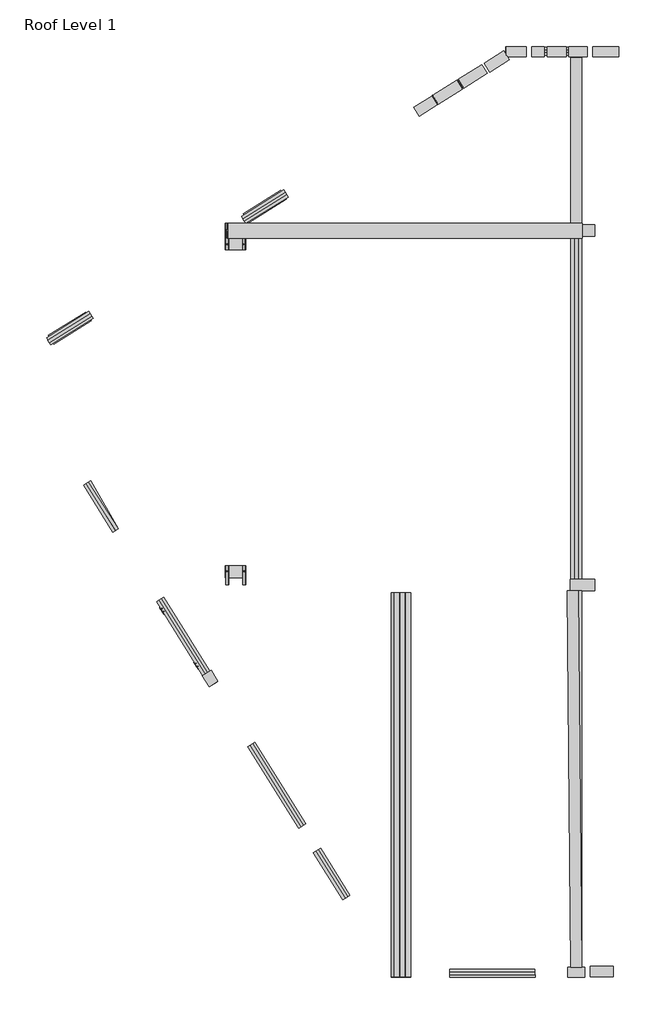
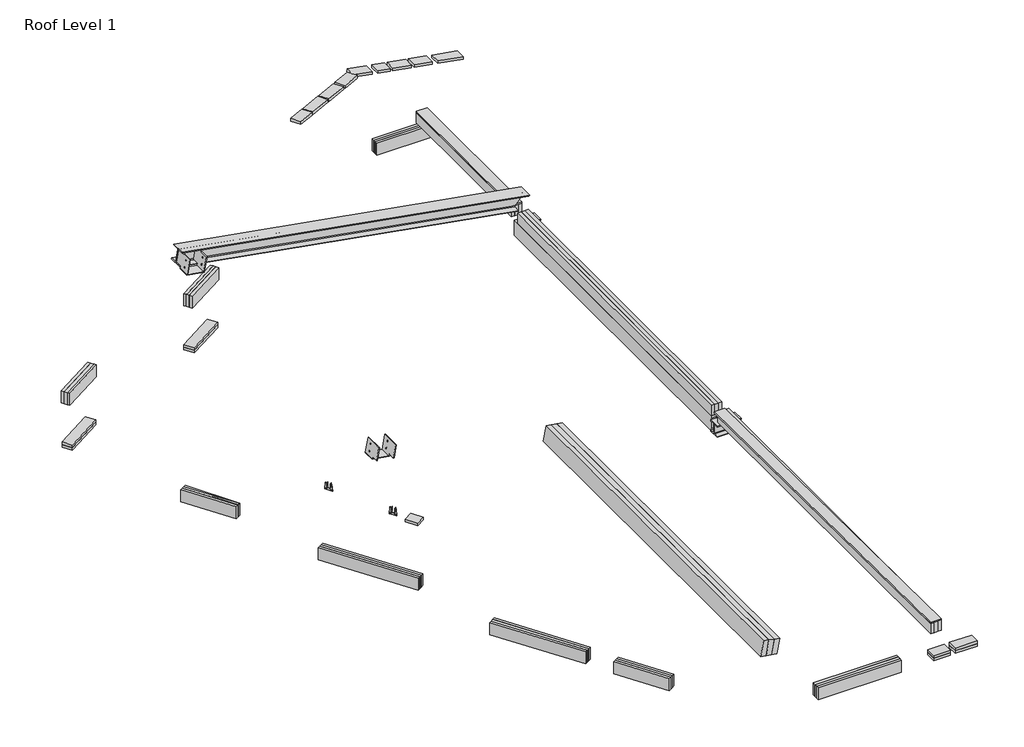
# One storey, incomplete: 52 beams, 6 proxies, 2 fasteners.
"""IFC4 building model written with IfcOpenShell, lengths in millimetres."""

from ifc_helpers import new_model, si_unit, point, frame, frame_2d, origin, place, context, project, spatial, polyline, circle_curve, ellipse_curve, trimmed, segment, composite_curve, outline, extrude, faceted_brep, transform, mapped, element, save
from ifc_brep_helpers import plane_surface, revolved_surface, advanced_brep
from components import beam_38x175_49020f02, beam_38x175_676dfe6d, beam_38x175_4bd95a5e, beam_38x175_f47548d0, beam_38x175_68774d32, beam_38x175_81e2ca7b, beam_38x175_494167a4, beam_38x175_de619a9e, beam_38x175_786eaa01, beam_38x175_d744822a, beam_38x175_5960142e, beam_38x175_c6337a63, beam_38x175_fa43021f, beam_38x175_4221ed1c, beam_38x175_250ad1c7, fin_plate_purlin_beam_connection_base_plate2_fin_plate_858f80be, fin_plate_purlin_beam_connection_base_plate5_fin_plate_4f75a835, fin_plate_purlin_beam_connection12_fin_plate_purlin_beam_61acc9f2, fin_plate_purlin_beam_connection13_fin_plate_purlin_beam_64d9cd63, fin_plate_purlin_beam_connection6_fin_plate_purlin_beam_f24f73d1, fin_plate_purlin_beam_connection7_fin_plate_purlin_beam_6425c43f, tcp47_tcp47_5fc6ffc4

model = new_model("IFC4")

# Units and contexts
model_context = context("Model", 3, world=origin())
ifc_project = project(units=[si_unit("LENGTHUNIT", "METRE", prefix="MILLI")], contexts=[model_context])

# Site, building, storey
site = spatial("IfcSite", under=ifc_project)
building = spatial("IfcBuilding", under=site)
storey = spatial("IfcBuildingStorey", under=building, Name="Roof Level 1", Elevation=3400.0)

# Beams
placement = place(None, origin())
element("IfcBeam", 1, ObjectType="Graded Timber - 2No : 2 x 75x225", at=placement, inside=storey, context=model_context, shape_type="SweptSolid", body=[
    extrude(outline(polyline([(15853.6021184, 2647.0), (15853.6021184, 2427.0), (11149.0549517, 2427.0), (11149.0549517, 2461.7), (11136.2127843, 2461.7), (11136.2127843, 2560.5), (11149.0549517, 2560.5), (11149.0549517, 2612.0), (11136.2127843, 2612.0), (11136.2127843, 2647.0), (15853.6021184, 2647.0)])), frame((-29441.9371106, 0.0, 0.0), z_axis=(1.0, 0.0, 0.0), x_axis=(0.0, 1.0, 0.0)), (0.0, 0.0, 1.0), 75.0),
    extrude(outline(polyline([(15853.6021184, 2647.0), (15853.6021184, 2427.0), (11149.0549517, 2427.0), (11149.0549517, 2461.7), (11136.2127843, 2461.7), (11136.2127843, 2560.5), (11149.0549517, 2560.5), (11149.0549517, 2612.0), (11136.2127843, 2612.0), (11136.2127843, 2647.0), (15853.6021184, 2647.0)])), frame((-29516.9371106, 0.0, 0.0), z_axis=(1.0, 0.0, 0.0), x_axis=(0.0, 1.0, 0.0)), (0.0, 0.0, 1.0), 75.0),
])
element("IfcBeam", 2, ObjectType="Graded Timber : 20x150", at=placement, inside=storey, context=model_context, shape_type="SweptSolid", body=[
    extrude(outline(polyline([(-29366.9547276, 5877.831558), (-29516.9471573, 5876.3245614), (-29568.1799466, 10975.5602204), (-29418.1875169, 10977.067217), (-29366.9547276, 5877.831558)])), frame((0.0, 0.0, 2797.0), z_axis=(0.0, 0.0, 1.0), x_axis=(1.0, 0.0, 0.0)), (0.0, 0.0, 1.0), 20.0),
])
element("IfcBeam", 3, ObjectType="Graded Timber : 20x150", at=placement, inside=storey, context=model_context, shape_type="SweptSolid", body=[
    extrude(outline(polyline([(-29366.9371106, 15931.623117), (-29516.9371106, 15931.623117), (-29516.9371106, 18197.3368082), (-29366.9371106, 18197.3368082), (-29366.9371106, 15931.623117)])), frame((0.0, 0.0, 2797.0), z_axis=(0.0, 0.0, 1.0), x_axis=(1.0, 0.0, 0.0)), (0.0, 0.0, 1.0), 20.0),
])
element("IfcBeam", 4, ObjectType="Graded Timber - 3No : 3 x 75x225", at=placement, inside=storey, context=model_context, shape_type="SweptSolid", body=[
    extrude(outline(polyline([(37.5000001, 0.0), (-37.5, 0.0), (-37.5, 5212.8012162), (37.5000001, 5212.8012161), (37.5000001, 0.0)])), frame((-31836.4314051, 5736.6935304, 3229.1839617), z_axis=(0.1736481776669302, 0.0021192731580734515, 0.9848054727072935), x_axis=(0.9848077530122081, -0.0003736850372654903, -0.1736477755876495)), (0.0, 0.0, 1.0), 220.0),
    extrude(outline(polyline([(37.5000001, 0.0), (-37.5, -1e-07), (-37.5, 5212.8012161), (37.5000001, 5212.8012161), (37.5000001, 0.0)])), frame((-31762.5708236, 5736.6655041, 3216.1603785), z_axis=(0.1736481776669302, 0.0021192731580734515, 0.9848054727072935), x_axis=(0.9848077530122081, -0.0003736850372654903, -0.1736477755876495)), (0.0, 0.0, 1.0), 220.0),
    extrude(outline(polyline([(37.5, 0.0), (-37.5, 0.0), (-37.5000001, 5212.8012162), (37.5, 5212.8012161), (37.5, 0.0)])), frame((-31910.2919865, 5736.7215568, 3242.2075449), z_axis=(0.1736481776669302, 0.0021192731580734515, 0.9848054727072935), x_axis=(0.9848077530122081, -0.0003736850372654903, -0.1736477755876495)), (0.0, 0.0, 1.0), 220.0),
])
element("IfcBeam", 5, ObjectType="Graded Timber : 38x140", at=placement, inside=storey, context=model_context, shape_type="SweptSolid", body=[
    extrude(outline(polyline([(-33881.2109612, 15963.4183163), (-33955.3989761, 16082.145476), (-33446.5683093, 16400.0941005), (-33372.3796104, 16281.3673682), (-33881.2109612, 15963.4183163)])), frame((0.0, 0.0, 2166.0), z_axis=(0.0, 0.0, 1.0), x_axis=(1.0, 0.0, 0.0)), (0.0, 0.0, 1.0), 38.0),
])
element("IfcBeam", 6, ObjectType="Graded Timber : 38x140", at=placement, inside=storey, context=model_context, shape_type="SweptSolid", body=[
    extrude(outline(polyline([(-33881.1101412, 15963.4813026), (-33955.2981561, 16082.2084623), (-33446.5683038, 16400.0940917), (-33372.3796049, 16281.3673594), (-33881.1101412, 15963.4813026)])), frame((0.0, 0.0, 2204.0), z_axis=(0.0, 0.0, 1.0), x_axis=(1.0, 0.0, 0.0)), (0.0, 0.0, 1.0), 38.0),
])
element("IfcBeam", 7, ObjectType="Graded Timber : 38x140", at=placement, inside=storey, context=model_context, shape_type="SweptSolid", body=[
    extrude(outline(polyline([(-36519.9896709, 14314.5488346), (-36594.1783698, 14433.2755669), (-36086.1975653, 14750.6972143), (-36012.0088664, 14631.9704821), (-36519.9896709, 14314.5488346)])), frame((0.0, 0.0, 2666.0), z_axis=(0.0, 0.0, 1.0), x_axis=(1.0, 0.0, 0.0)), (0.0, 0.0, 1.0), 38.0),
])
element("IfcBeam", 8, ObjectType="Graded Timber : 38x140", at=placement, inside=storey, context=model_context, shape_type="SweptSolid", body=[
    extrude(outline(polyline([(-36519.9896709, 14314.5488346), (-36594.1783698, 14433.2755669), (-36086.1975653, 14750.6972143), (-36012.0088664, 14631.9704821), (-36519.9896709, 14314.5488346)])), frame((0.0, 0.0, 2704.0), z_axis=(0.0, 0.0, 1.0), x_axis=(1.0, 0.0, 0.0)), (0.0, 0.0, 1.0), 38.0),
])
element("IfcBeam", 9, ObjectType="Graded Timber : 38x140", at=placement, inside=storey, context=model_context, shape_type="SweptSolid", body=[
    extrude(outline(polyline([(3406.9166764, -29219.5411236), (3344.3904214, -28864.9371106), (3382.9766327, -28864.9371106), (3445.5028876, -29219.5411236), (3406.9166764, -29219.5411236)])), frame((0.0, 18207.3350736, 0.0), z_axis=(0.0, 1.0, 0.0), x_axis=(0.0, 0.0, 1.0)), (0.0, 0.0, 1.0), 140.0),
])
element("IfcBeam", 10, ObjectType="Graded Timber : 38x140", at=placement, inside=storey, context=model_context, shape_type="SweptSolid", body=[
    extrude(outline(polyline([(3464.1517067, -29544.1371106), (3420.3175269, -29295.5411236), (3458.9037382, -29295.5411236), (3502.737918, -29544.1371106), (3464.1517067, -29544.1371106)])), frame((0.0, 18207.3350736, 0.0), z_axis=(0.0, 1.0, 0.0), x_axis=(0.0, 0.0, 1.0)), (0.0, 0.0, 1.0), 140.0),
])
element("IfcBeam", 11, ObjectType="Graded Timber : 38x140", at=placement, inside=storey, context=model_context, shape_type="SweptSolid", body=[
    extrude(outline(polyline([(3515.9918391, -29838.1371106), (3470.852132, -29582.1371106), (3509.4383432, -29582.1371106), (3554.5780503, -29838.1371106), (3515.9918391, -29838.1371106)])), frame((0.0, 18207.3350736, 0.0), z_axis=(0.0, 1.0, 0.0), x_axis=(0.0, 0.0, 1.0)), (0.0, 0.0, 1.0), 140.0),
])
element("IfcBeam", 12, ObjectType="Graded Timber : 38x140", at=placement, inside=storey, context=model_context, shape_type="Brep", body=[
    faceted_brep([(-30692.1893241, 18121.1963529, 3698.0512131), (-30425.1362453, 18288.0696372, 3650.9625501), (-30425.1362453, 18288.0696372, 3612.5400523), (-30692.1893241, 18121.1963529, 3659.6287153), (-30618.0006252, 18002.4696206, 3698.0512128), (-30350.9475464, 18169.3429049, 3650.9625497), (-30350.9475464, 18169.3429049, 3612.5400519), (-30618.0006252, 18002.4696206, 3659.628715)], [[[0, 1, 2, 3]], [[4, 5, 1, 0]], [[2, 1, 5, 6]], [[3, 2, 6, 7]], [[7, 6, 5, 4]], [[0, 3, 7, 4]]]),
])
element("IfcBeam", 13, ObjectType="Graded Timber : 38x140", at=placement, inside=storey, context=model_context, shape_type="Brep", body=[
    faceted_brep([(-31042.3560317, 17902.3879025, 3759.795052), (-31047.1218924, 17899.4098623, 3722.212904), (-30972.9331954, 17780.6831288, 3722.212904), (-30968.1673347, 17783.6611691, 3759.795052), (-30724.4151487, 18101.0594161, 3703.733496), (-30724.4151487, 18101.0594161, 3665.3109982), (-30650.2264498, 17982.3326838, 3665.3109979), (-30650.2264498, 17982.3326838, 3703.7334957)], [[[0, 1, 2, 3]], [[1, 0, 4, 5]], [[2, 1, 5, 6]], [[3, 2, 6, 7]], [[0, 3, 7, 4]], [[5, 4, 7, 6]]]),
])
element("IfcBeam", 14, ObjectType="Graded Timber : 38x140", at=placement, inside=storey, context=model_context, shape_type="Brep", body=[
    faceted_brep([(-31386.5489761, 17687.3122729, 3820.4855552), (-31391.3148367, 17684.3342327, 3782.9034072), (-31317.1261397, 17565.6074992, 3782.9034072), (-31312.3602791, 17568.5855394, 3820.4855552), (-31063.6344083, 17889.0916896, 3763.5470045), (-31063.6344083, 17889.0916896, 3725.1245066), (-30989.4457094, 17770.3649574, 3725.1245063), (-30989.4457094, 17770.3649574, 3763.5470041)], [[[0, 1, 2, 3]], [[1, 0, 4, 5]], [[2, 1, 5, 6]], [[3, 2, 6, 7]], [[0, 3, 7, 4]], [[5, 4, 7, 6]]]),
])
element("IfcBeam", 15, ObjectType="Graded Timber : 38x140", at=placement, inside=storey, context=model_context, shape_type="Brep", body=[
    faceted_brep([(-31646.2434469, 17525.0371497, 3866.2766978), (-31402.8536188, 17677.1239938, 3823.3605043), (-31402.8536188, 17677.1239938, 3784.9380064), (-31646.2434469, 17525.0371497, 3827.8542), (-31572.054748, 17406.3104174, 3866.2766974), (-31328.6649199, 17558.3972615, 3823.3605039), (-31328.6649199, 17558.3972615, 3784.9380061), (-31572.054748, 17406.3104174, 3827.8541996)], [[[0, 1, 2, 3]], [[4, 5, 1, 0]], [[2, 1, 5, 6]], [[3, 2, 6, 7]], [[7, 6, 5, 4]], [[0, 3, 7, 4]]]),
])
element("IfcBeam", 16, ObjectType="Graded Timber : 38x140", at=placement, inside=storey, context=model_context, shape_type="SweptSolid", body=[
    extrude(outline(polyline([(-29327.9371107, 5736.5605791), (-29555.9371107, 5736.5605791), (-29555.9371107, 5876.5605791), (-29327.9371107, 5876.5605791), (-29327.9371107, 5736.5605791)])), frame((0.0, 0.0, 2351.0), z_axis=(0.0, 0.0, 1.0), x_axis=(1.0, 0.0, 0.0)), (0.0, 0.0, 1.0), 38.0),
])
element("IfcBeam", 17, ObjectType="Graded Timber : 38x140", at=placement, inside=storey, context=model_context, shape_type="SweptSolid", body=[
    extrude(outline(polyline([(-29327.9371107, 5736.5605791), (-29555.9371107, 5736.5605791), (-29555.9371107, 5876.5605791), (-29327.9371107, 5876.5605791), (-29327.9371107, 5736.5605791)])), frame((0.0, 0.0, 2389.0), z_axis=(0.0, 0.0, 1.0), x_axis=(1.0, 0.0, 0.0)), (0.0, 0.0, 1.0), 38.0),
])
element("IfcBeam", 18, ObjectType="Graded Timber : 38x140", at=placement, inside=storey, context=model_context, shape_type="SweptSolid", body=[
    extrude(outline(polyline([(-28944.4371265, 5746.560593), (-29251.9371107, 5746.560593), (-29251.9371107, 5886.560593), (-28944.4371265, 5886.560593), (-28944.4371265, 5746.560593)])), frame((0.0, 0.0, 2345.0), z_axis=(0.0, 0.0, 1.0), x_axis=(1.0, 0.0, 0.0)), (0.0, 0.0, 1.0), 38.0),
])
element("IfcBeam", 19, ObjectType="Graded Timber : 38x140", at=placement, inside=storey, context=model_context, shape_type="SweptSolid", body=[
    extrude(outline(polyline([(-28944.4371265, 5746.560593), (-29251.9371107, 5746.560593), (-29251.9371107, 5886.560593), (-28944.4371265, 5886.560593), (-28944.4371265, 5746.560593)])), frame((0.0, 0.0, 2383.0), z_axis=(0.0, 0.0, 1.0), x_axis=(1.0, 0.0, 0.0)), (0.0, 0.0, 1.0), 38.0),
])
element("IfcBeam", 20, ObjectType="Graded Timber : 38x140", at=placement, inside=storey, context=model_context, shape_type="SweptSolid", body=[
    extrude(outline(polyline([(-34417.5054408, 9675.6563855), (-34510.0566682, 9823.726109), (-34391.3299349, 9897.9148085), (-34298.7787075, 9749.8450851), (-34417.5054408, 9675.6563855)])), frame((0.0, 0.0, 3640.6), z_axis=(0.0, 0.0, 1.0), x_axis=(1.0, 0.0, 0.0)), (0.0, 0.0, 1.0), 38.0),
])
element("IfcBeam", 21, ObjectType="Graded Timber : 38x140", at=placement, inside=storey, context=model_context, shape_type="SweptSolid", body=[
    extrude(outline(polyline([(3552.9154164, -30047.5411236), (3522.6922643, -29876.1371106), (3561.2784756, -29876.1371106), (3591.5016277, -30047.5411236), (3552.9154164, -30047.5411236)])), frame((0.0, 18207.3350736, 0.0), z_axis=(0.0, 1.0, 0.0), x_axis=(0.0, 0.0, 1.0)), (0.0, 0.0, 1.0), 140.0),
])
element("IfcBeam", 22, ObjectType="Graded Timber : 38x140", at=placement, inside=storey, context=model_context, shape_type="SweptSolid", body=[
    extrude(outline(polyline([(3651.9229099, -30390.2072429), (3614.5002152, -30396.8058736), (3566.3162669, -30123.5411236), (3604.9024782, -30123.5411236), (3651.9229099, -30390.2072429)])), frame((0.0, 18207.3350736, 0.0), z_axis=(0.0, 1.0, 0.0), x_axis=(0.0, 0.0, 1.0)), (0.0, 0.0, 1.0), 140.0),
])
element("IfcBeam", 23, ObjectType="Graded Timber : 38x175", at=placement, inside=storey, context=model_context, shape_type="SweptSolid", body=[
    extrude(outline(polyline([(-30004.3383673, 5850.5605791), (-30004.3383673, 5812.5605791), (-31154.7861447, 5812.5605791), (-31154.7861447, 5850.5605791), (-30004.3383673, 5850.5605791)])), frame((0.0, 0.0, 2342.0), z_axis=(0.0, 0.0, 1.0), x_axis=(1.0, 0.0, 0.0)), (0.0, 0.0, 1.0), 175.0),
])
element("IfcBeam", 24, ObjectType="Graded Timber : 38x175", at=placement, inside=storey, context=model_context, shape_type="SweptSolid", body=[
    extrude(outline(polyline([(-30003.133578, 5812.5605791), (-30003.133578, 5774.5605791), (-31154.133578, 5774.5605791), (-31154.133578, 5812.5605791), (-30003.133578, 5812.5605791)])), frame((0.0, 0.0, 2342.0), z_axis=(0.0, 0.0, 1.0), x_axis=(1.0, 0.0, 0.0)), (0.0, 0.0, 1.0), 175.0),
])
element("IfcBeam", 25, ObjectType="Graded Timber : 38x175", at=placement, inside=storey, context=model_context, shape_type="SweptSolid", body=[
    extrude(outline(polyline([(-33917.8411559, 15950.8083428), (-33937.9779028, 15983.0342861), (-33364.9098874, 16341.1223479), (-33344.7729548, 16308.8965206), (-33917.8411559, 15950.8083428)])), frame((0.0, 0.0, 2842.0), z_axis=(0.0, 0.0, 1.0), x_axis=(1.0, 0.0, 0.0)), (0.0, 0.0, 1.0), 175.0),
])
element("IfcBeam", 26, ObjectType="Graded Timber : 38x175", at=placement, inside=storey, context=model_context, shape_type="SweptSolid", body=[
    extrude(outline(polyline([(-33958.1975062, 16015.1705697), (-33978.3342531, 16047.396513), (-33405.1667266, 16405.5467554), (-33385.029794, 16373.3209281), (-33958.1975062, 16015.1705697)])), frame((0.0, 0.0, 2842.0), z_axis=(0.0, 0.0, 1.0), x_axis=(1.0, 0.0, 0.0)), (0.0, 0.0, 1.0), 175.0),
])
element("IfcBeam", 27, ObjectType="Graded Timber : 38x175", at=placement, inside=storey, context=model_context, shape_type="SweptSolid", body=[
    extrude(outline(polyline([(-30001.6158439, 5774.5605791), (-30001.6158439, 5736.5605791), (-31154.6413079, 5736.5605791), (-31154.6413079, 5774.5605791), (-30001.6158439, 5774.5605791)])), frame((0.0, 0.0, 2342.0), z_axis=(0.0, 0.0, 1.0), x_axis=(1.0, 0.0, 0.0)), (0.0, 0.0, 1.0), 175.0),
])
element("IfcBeam", 28, ObjectType="Graded Timber : 38x175", at=placement, inside=storey, context=model_context, shape_type="SweptSolid", body=[
    extrude(outline(polyline([(-33938.8180461, 15982.5093131), (-33958.954793, 16014.7352564), (-33385.0602856, 16373.339761), (-33364.9235387, 16341.1138177), (-33938.8180461, 15982.5093131)])), frame((0.0, 0.0, 2842.0), z_axis=(0.0, 0.0, 1.0), x_axis=(1.0, 0.0, 0.0)), (0.0, 0.0, 1.0), 175.0),
])
element("IfcBeam", 29, ObjectType="Graded Timber : 38x175", at=placement, inside=storey, context=model_context, shape_type="SweptSolid", body=[
    extrude(outline(polyline([(-33171.5016556, 7777.9018658), (-33203.7272861, 7757.7646182), (-33893.1630511, 8861.0684412), (-33860.9374206, 8881.2056888), (-33171.5016556, 7777.9018658)])), frame((0.0, 0.0, 2357.0), z_axis=(0.0, 0.0, 1.0), x_axis=(1.0, 0.0, 0.0)), (0.0, 0.0, 1.0), 175.0),
])
beam_38x175_shape = beam_38x175_49020f02(model_context)
element("IfcBeam", 30, ObjectType="Graded Timber : 38x175", at=placement, inside=storey, context=model_context, shape_type="MappedRepresentation", body=[
    mapped(beam_38x175_shape, transform((-29671.5507262, 18322.2607433, 2429.5), x_axis=(-0.9999999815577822, -0.00019205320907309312, 0.0), y_axis=(0.00019205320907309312, -0.9999999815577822, 0.0), z_axis=(0.0, 0.0, 1.0))),
])
beam_38x175_2_shape = beam_38x175_676dfe6d(model_context)
element("IfcBeam", 31, ObjectType="Graded Timber : 38x175", at=placement, inside=storey, context=model_context, shape_type="MappedRepresentation", body=[
    mapped(beam_38x175_2_shape, transform((-29671.542852, 18246.2607434, 2429.5), x_axis=(-0.9999999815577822, -0.00019205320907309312, 0.0), y_axis=(0.00019205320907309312, -0.9999999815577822, 0.0), z_axis=(0.0, 0.0, 1.0))),
])
beam_38x175_3_shape = beam_38x175_4bd95a5e(model_context)
element("IfcBeam", 32, ObjectType="Graded Timber : 38x175", at=placement, inside=storey, context=model_context, shape_type="MappedRepresentation", body=[
    mapped(beam_38x175_3_shape, transform((-29670.53862, 18284.260937, 2429.5), x_axis=(-0.9999999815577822, -0.00019205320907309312, 0.0), y_axis=(0.00019205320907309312, -0.9999999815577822, 0.0), z_axis=(0.0, 0.0, 1.0))),
])
beam_38x175_4_shape = beam_38x175_f47548d0(model_context)
element("IfcBeam", 33, ObjectType="Graded Timber : 38x175", at=placement, inside=storey, context=model_context, shape_type="MappedRepresentation", body=[
    mapped(beam_38x175_4_shape, transform((-35900.8780027, 12094.7988016, 3014.5), x_axis=(0.5299275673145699, -0.8480429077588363, 0.0), y_axis=(0.8480429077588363, 0.5299275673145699, 0.0), z_axis=(0.0, 0.0, 1.0))),
])
beam_38x175_5_shape = beam_38x175_68774d32(model_context)
element("IfcBeam", 34, ObjectType="Graded Timber : 38x175", at=placement, inside=storey, context=model_context, shape_type="MappedRepresentation", body=[
    mapped(beam_38x175_5_shape, transform((-34731.1628392, 10294.6093543, 2779.5), x_axis=(0.5299275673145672, -0.848042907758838, 0.0), y_axis=(0.848042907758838, 0.5299275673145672, 0.0), z_axis=(0.0, 0.0, 1.0))),
])
beam_38x175_6_shape = beam_38x175_81e2ca7b(model_context)
element("IfcBeam", 35, ObjectType="Graded Timber : 38x175", at=placement, inside=storey, context=model_context, shape_type="MappedRepresentation", body=[
    mapped(beam_38x175_6_shape, transform((-34755.0785334, 10261.1734765, 2779.5), x_axis=(0.5299275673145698, -0.8480429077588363, 0.0), y_axis=(0.8480429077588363, 0.5299275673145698, 0.0), z_axis=(0.0, 0.0, 1.0))),
])
beam_38x175_7_shape = beam_38x175_494167a4(model_context)
element("IfcBeam", 36, ObjectType="Graded Timber : 38x175", at=placement, inside=storey, context=model_context, shape_type="MappedRepresentation", body=[
    mapped(beam_38x175_7_shape, transform((-34703.9682754, 10322.8040176, 2779.5), x_axis=(0.5299235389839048, -0.8480454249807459, 0.0), y_axis=(0.8480454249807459, 0.5299235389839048, 0.0), z_axis=(0.0, 0.0, 1.0))),
])
beam_38x175_8_shape = beam_38x175_de619a9e(model_context)
element("IfcBeam", 37, ObjectType="Graded Timber : 38x175", at=placement, inside=storey, context=model_context, shape_type="MappedRepresentation", body=[
    mapped(beam_38x175_8_shape, transform((-33487.3938536, 8319.2657443, 2444.5), x_axis=(0.5299191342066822, -0.848048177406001, 0.0), y_axis=(0.848048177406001, 0.5299191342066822, 0.0), z_axis=(0.0, 0.0, 1.0))),
])
element("IfcBeam", 38, ObjectType="Graded Timber : 38x175", at=placement, inside=storey, context=model_context, shape_type="MappedRepresentation", body=[
    mapped(beam_38x175_8_shape, transform((-33455.0301263, 8339.1819907, 2444.5), x_axis=(0.529919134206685, -0.8480481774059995, 0.0), y_axis=(0.8480481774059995, 0.529919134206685, 0.0), z_axis=(0.0, 0.0, 1.0))),
])
beam_38x175_9_shape = beam_38x175_786eaa01(model_context)
element("IfcBeam", 39, ObjectType="Graded Timber : 38x175", at=placement, inside=storey, context=model_context, shape_type="MappedRepresentation", body=[
    mapped(beam_38x175_9_shape, transform((-35870.4501361, 12125.3752826, 3014.5), x_axis=(0.5384018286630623, -0.8426882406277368, 0.0), y_axis=(0.8426882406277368, 0.5384018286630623, 0.0), z_axis=(0.0, 0.0, 1.0))),
])
beam_38x175_10_shape = beam_38x175_d744822a(model_context)
element("IfcBeam", 40, ObjectType="Graded Timber : 38x175", at=placement, inside=storey, context=model_context, shape_type="MappedRepresentation", body=[
    mapped(beam_38x175_10_shape, transform((-35854.7087942, 12136.0383751, 3014.5), x_axis=(0.4978381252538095, -0.8672699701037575, 0.0), y_axis=(0.8672699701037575, 0.4978381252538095, 0.0), z_axis=(0.0, 0.0, 1.0))),
])
beam_38x175_11_shape = beam_38x175_5960142e(model_context)
element("IfcBeam", 41, ObjectType="Graded Timber : 38x175", at=placement, inside=storey, context=model_context, shape_type="MappedRepresentation", body=[
    mapped(beam_38x175_11_shape, transform((-32803.1078023, 7139.2527502, 2429.5), x_axis=(0.529919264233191, -0.8480480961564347, 0.0), y_axis=(0.8480480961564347, 0.529919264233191, 0.0), z_axis=(0.0, 0.0, 1.0))),
])
element("IfcBeam", 42, ObjectType="Graded Timber : 38x175", at=placement, inside=storey, context=model_context, shape_type="MappedRepresentation", body=[
    mapped(beam_38x175_11_shape, transform((-32770.8819751, 7159.3896829, 2429.5), x_axis=(0.529919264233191, -0.8480480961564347, 0.0), y_axis=(0.8480480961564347, 0.529919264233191, 0.0), z_axis=(0.0, 0.0, 1.0))),
])
beam_38x175_12_shape = beam_38x175_c6337a63(model_context)
element("IfcBeam", 43, ObjectType="Graded Timber : 38x175", at=placement, inside=storey, context=model_context, shape_type="MappedRepresentation", body=[
    mapped(beam_38x175_12_shape, transform((-32738.6561478, 7179.5266156, 2429.5), x_axis=(0.529919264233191, -0.8480480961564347, 0.0), y_axis=(0.8480480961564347, 0.529919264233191, 0.0), z_axis=(0.0, 0.0, 1.0))),
])
beam_38x175_13_shape = beam_38x175_fa43021f(model_context)
element("IfcBeam", 44, ObjectType="Graded Timber : 38x175", at=placement, inside=storey, context=model_context, shape_type="MappedRepresentation", body=[
    mapped(beam_38x175_13_shape, transform((-36319.1178866, 14522.6099498, 3429.5), x_axis=(-0.8480480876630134, -0.5299192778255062, 0.0), y_axis=(0.5299192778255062, -0.8480480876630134, 0.0), z_axis=(0.0, 0.0, 1.0))),
])
beam_38x175_14_shape = beam_38x175_4221ed1c(model_context)
element("IfcBeam", 45, ObjectType="Graded Timber : 38x175", at=placement, inside=storey, context=model_context, shape_type="MappedRepresentation", body=[
    mapped(beam_38x175_14_shape, transform((-36298.9809541, 14490.3841225, 3429.5), x_axis=(-0.8480480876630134, -0.5299192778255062, 0.0), y_axis=(0.5299192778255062, -0.8480480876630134, 0.0), z_axis=(0.0, 0.0, 1.0))),
])
beam_38x175_15_shape = beam_38x175_250ad1c7(model_context)
element("IfcBeam", 46, ObjectType="Graded Timber : 38x175", at=placement, inside=storey, context=model_context, shape_type="MappedRepresentation", body=[
    mapped(beam_38x175_15_shape, transform((-36339.2548192, 14554.8357771, 3429.5), x_axis=(-0.8480480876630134, -0.5299192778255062, 0.0), y_axis=(0.5299192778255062, -0.8480480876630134, 0.0), z_axis=(0.0, 0.0, 1.0))),
])
element("IfcBeam", 47, ObjectType="3No 50 x 150 : 3 x 50x150", at=placement, inside=storey, context=model_context, shape_type="SweptSolid", body=[
    extrude(outline(polyline([(-29416.9371106, 11136.2127843), (-29466.9371106, 11136.2127843), (-29466.9371106, 15776.6021184), (-29416.9371106, 15776.6021184), (-29416.9371106, 11136.2127843)])), frame((0.0, 0.0, 2647.0), z_axis=(0.0, 0.0, 1.0), x_axis=(1.0, 0.0, 0.0)), (0.0, 0.0, 1.0), 150.0),
    extrude(outline(polyline([(-29366.9371106, 11136.2127843), (-29416.9371106, 11136.2127843), (-29416.9371106, 15776.6021184), (-29366.9371106, 15776.6021184), (-29366.9371106, 11136.2127843)])), frame((0.0, 0.0, 2647.0), z_axis=(0.0, 0.0, 1.0), x_axis=(1.0, 0.0, 0.0)), (0.0, 0.0, 1.0), 150.0),
    extrude(outline(polyline([(-29466.9371106, 11136.2127843), (-29516.9371106, 11136.2127843), (-29516.9371106, 15776.6021184), (-29466.9371106, 15776.6021184), (-29466.9371106, 11136.2127843)])), frame((0.0, 0.0, 2647.0), z_axis=(0.0, 0.0, 1.0), x_axis=(1.0, 0.0, 0.0)), (0.0, 0.0, 1.0), 150.0),
])
element("IfcBeam", 48, ObjectType="3No 50 x 150 : 3 x 50x150", at=placement, inside=storey, context=model_context, shape_type="SweptSolid", body=[
    extrude(outline(polyline([(-29416.9371106, 5876.5701427), (-29466.9371106, 5876.5701427), (-29466.9371106, 10976.7757679), (-29416.9371106, 10976.7757679), (-29416.9371106, 5876.5701427)])), frame((0.0, 0.0, 2647.0), z_axis=(0.0, 0.0, 1.0), x_axis=(1.0, 0.0, 0.0)), (0.0, 0.0, 1.0), 150.0),
    extrude(outline(polyline([(-29366.9371106, 5876.5701427), (-29416.9371106, 5876.5701427), (-29416.9371106, 10976.7757679), (-29366.9371106, 10976.7757679), (-29366.9371106, 5876.5701427)])), frame((0.0, 0.0, 2647.0), z_axis=(0.0, 0.0, 1.0), x_axis=(1.0, 0.0, 0.0)), (0.0, 0.0, 1.0), 150.0),
    extrude(outline(polyline([(-29466.9371106, 5876.5701427), (-29516.9371106, 5876.5701427), (-29516.9371106, 10976.7757679), (-29466.9371106, 10976.7757679), (-29466.9371106, 5876.5701427)])), frame((0.0, 0.0, 2647.0), z_axis=(0.0, 0.0, 1.0), x_axis=(1.0, 0.0, 0.0)), (0.0, 0.0, 1.0), 150.0),
])
element("IfcBeam", 49, ObjectType="3No 50 x 150 : 3 x 50x150", at=placement, inside=storey, context=model_context, shape_type="SweptSolid", body=[
    extrude(outline(polyline([(-29416.9371106, 15931.3368082), (-29466.9371106, 15931.3368082), (-29466.9371106, 18197.3368082), (-29416.9371106, 18197.3368082), (-29416.9371106, 15931.3368082)])), frame((0.0, 0.0, 2647.0), z_axis=(0.0, 0.0, 1.0), x_axis=(1.0, 0.0, 0.0)), (0.0, 0.0, 1.0), 150.0),
    extrude(outline(polyline([(-29366.9371106, 15931.3368082), (-29416.9371106, 15931.3368082), (-29416.9371106, 18197.3368082), (-29366.9371106, 18197.3368082), (-29366.9371106, 15931.3368082)])), frame((0.0, 0.0, 2647.0), z_axis=(0.0, 0.0, 1.0), x_axis=(1.0, 0.0, 0.0)), (0.0, 0.0, 1.0), 150.0),
    extrude(outline(polyline([(-29466.9371106, 15931.3368082), (-29516.9371106, 15931.3368082), (-29516.9371106, 18197.3368082), (-29466.9371106, 18197.3368082), (-29466.9371106, 15931.3368082)])), frame((0.0, 0.0, 2647.0), z_axis=(0.0, 0.0, 1.0), x_axis=(1.0, 0.0, 0.0)), (0.0, 0.0, 1.0), 150.0),
])
element("IfcBeam", 50, ObjectType="UKC-UK Columns : UKC152x152x37", at=placement, inside=storey, context=model_context, shape_type="SweptSolid", body=[
    extrude(outline(composite_curve([segment(polyline([(10974.6549517, 2441.7), (11040.2549517, 2441.7)]), True, "CONTINUOUS"), segment(trimmed(circle_curve(frame_2d((11040.2549517, 2449.3)), 7.6), [point((11040.2549517, 2441.7))], [point((11047.8549517, 2449.3))], True, "CARTESIAN"), True, "CONTINUOUS"), segment(polyline([(11047.8549517, 2449.3), (11047.8549517, 2572.9)]), True, "CONTINUOUS"), segment(trimmed(circle_curve(frame_2d((11040.2549517, 2572.9)), 7.6), [point((11047.8549517, 2572.9))], [point((11040.2549517, 2580.5))], True, "CARTESIAN"), True, "CONTINUOUS"), segment(polyline([(11040.2549517, 2580.5), (10974.6549517, 2580.5), (10974.6549517, 2592.0), (11129.0549517, 2592.0), (11129.0549517, 2580.5), (11063.4549517, 2580.5)]), True, "CONTINUOUS"), segment(trimmed(circle_curve(frame_2d((11063.4549517, 2572.9)), 7.6), [point((11063.4549517, 2580.5))], [point((11055.8549517, 2572.9))], True, "CARTESIAN"), True, "CONTINUOUS"), segment(polyline([(11055.8549517, 2572.9), (11055.8549517, 2449.3)]), True, "CONTINUOUS"), segment(trimmed(circle_curve(frame_2d((11063.4549517, 2449.3)), 7.6), [point((11055.8549517, 2449.3))], [point((11063.4549517, 2441.7))], True, "CARTESIAN"), True, "CONTINUOUS"), segment(polyline([(11063.4549517, 2441.7), (11129.0549517, 2441.7), (11129.0549517, 2430.2), (10974.6549517, 2430.2), (10974.6549517, 2441.7)]), True, "CONTINUOUS")], self_intersect=False)), frame((-29525.9371106, 0.0, 0.0), z_axis=(1.0, 0.0, 0.0), x_axis=(0.0, 1.0, 0.0)), (0.0, 0.0, 1.0), 332.0),
])
element("IfcBeam", 51, ObjectType="UKC-UK Columns : UKC152x152x37", at=placement, inside=storey, context=model_context, shape_type="SweptSolid", body=[
    extrude(outline(composite_curve([segment(polyline([(15777.223117, 2441.7), (15842.823117, 2441.7)]), True, "CONTINUOUS"), segment(trimmed(circle_curve(frame_2d((15842.823117, 2449.3)), 7.6), [point((15842.823117, 2441.7))], [point((15850.423117, 2449.3))], True, "CARTESIAN"), True, "CONTINUOUS"), segment(polyline([(15850.423117, 2449.3), (15850.423117, 2572.9)]), True, "CONTINUOUS"), segment(trimmed(circle_curve(frame_2d((15842.823117, 2572.9)), 7.6), [point((15850.423117, 2572.9))], [point((15842.823117, 2580.5))], True, "CARTESIAN"), True, "CONTINUOUS"), segment(polyline([(15842.823117, 2580.5), (15777.223117, 2580.5), (15777.223117, 2592.0), (15931.623117, 2592.0), (15931.623117, 2580.5), (15866.023117, 2580.5)]), True, "CONTINUOUS"), segment(trimmed(circle_curve(frame_2d((15866.023117, 2572.9)), 7.6), [point((15866.023117, 2580.5))], [point((15858.423117, 2572.9))], True, "CARTESIAN"), True, "CONTINUOUS"), segment(polyline([(15858.423117, 2572.9), (15858.423117, 2449.3)]), True, "CONTINUOUS"), segment(trimmed(circle_curve(frame_2d((15866.023117, 2449.3)), 7.6), [point((15858.423117, 2449.3))], [point((15866.023117, 2441.7))], True, "CARTESIAN"), True, "CONTINUOUS"), segment(polyline([(15866.023117, 2441.7), (15931.623117, 2441.7), (15931.623117, 2430.2), (15777.223117, 2430.2), (15777.223117, 2441.7)]), True, "CONTINUOUS")], self_intersect=False)), frame((-29363.6712085, 0.0, 0.0), z_axis=(1.0, 0.0, 0.0), x_axis=(0.0, 1.0, 0.0)), (0.0, 0.0, 1.0), 170.0),
])
element("IfcBeam", 52, ObjectType="UKC-UK Columns : UKC203x203x46", at=placement, inside=storey, context=model_context, shape_type="AdvancedBrep", body=[
    advanced_brep(
    [(-29517.1711644, 15956.223117, 2848.4543397), (-29517.1711644, 15868.223117, 2848.4543397), (-29509.0492829, 15858.023117, 2857.3796085), (-29381.0102095, 15858.023117, 2998.0838469), (-29372.888328, 15868.223117, 3007.0091157), (-29372.888328, 15956.223117, 3007.0091157), (-29364.1294362, 15956.223117, 3016.6344057), (-29364.1294362, 15752.623117, 3016.6344057), (-29372.888328, 15752.623117, 3007.0091157), (-29372.888328, 15840.623117, 3007.0091157), (-29381.0102095, 15850.823117, 2998.0838469), (-29509.0492829, 15850.823117, 2857.3796085), (-29517.1711644, 15840.623117, 2848.4543397), (-29517.1711644, 15752.623117, 2848.4543397), (-29525.9300562, 15752.623117, 2838.8290498), (-29525.9300562, 15956.223117, 2838.8290498), (-34199.633797, 15956.223117, 3674.0809552), (-34201.5438868, 15956.223117, 3663.2480629), (-34201.5438868, 15752.623117, 3663.2480629), (-34199.633797, 15752.623117, 3674.0809552), (-34199.633797, 15840.623117, 3674.0809552), (-34197.8626228, 15850.823117, 3684.1260009), (-34169.9405823, 15850.823117, 3842.483191), (-34168.1694081, 15840.623117, 3852.5282366), (-34168.1694081, 15752.623117, 3852.5282366), (-34166.2593183, 15752.623117, 3863.361129), (-34166.2593183, 15956.223117, 3863.361129), (-34168.1694081, 15956.223117, 3852.5282366), (-34168.1694081, 15868.223117, 3852.5282366), (-34169.9405823, 15858.023117, 3842.483191), (-34197.8626228, 15858.023117, 3684.1260009), (-34199.633797, 15868.223117, 3674.0809552)],
    [
        (0, 1),
        (1, 2, ellipse_curve(frame((-29509.0492829, 15868.223117, 2857.3796085), z_axis=(-0.739609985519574, 0.0, 0.6730357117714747), x_axis=(-0.6730357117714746, 0.0, -0.7396099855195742)), 12.0675343, 10.2)),
        (2, 3),
        (3, 4, ellipse_curve(frame((-29381.0102095, 15868.223117, 2998.0838469), z_axis=(-0.739609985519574, 0.0, 0.6730357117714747), x_axis=(-0.6730357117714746, 0.0, -0.7396099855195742)), 12.0675343, 10.2)),
        (4, 5),
        (5, 6),
        (6, 7),
        (7, 8),
        (8, 9),
        (9, 10, ellipse_curve(frame((-29381.0102095, 15840.623117, 2998.0838469), z_axis=(-0.739609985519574, 0.0, 0.6730357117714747), x_axis=(-0.6730357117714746, 0.0, -0.7396099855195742)), 12.0675343, 10.2)),
        (10, 11),
        (11, 12, ellipse_curve(frame((-29509.0492829, 15840.623117, 2857.3796085), z_axis=(-0.739609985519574, 0.0, 0.6730357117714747), x_axis=(-0.6730357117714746, 0.0, -0.7396099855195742)), 12.0675343, 10.2)),
        (12, 13),
        (13, 14),
        (14, 15),
        (15, 0),
        (16, 17),
        (17, 18),
        (18, 19),
        (19, 20),
        (20, 21, circle_curve(frame((-34197.8626228, 15840.623117, 3684.1260009), z_axis=(0.9848083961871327, 0.0, -0.17364453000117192), x_axis=(0.0, -1.0, 0.0)), 10.2)),
        (21, 22),
        (22, 23, circle_curve(frame((-34169.9405823, 15840.623117, 3842.483191), z_axis=(0.9848083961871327, 0.0, -0.17364453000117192), x_axis=(0.0, -1.0, 0.0)), 10.2)),
        (23, 24),
        (24, 25),
        (25, 26),
        (26, 27),
        (27, 28),
        (28, 29, circle_curve(frame((-34169.9405823, 15868.223117, 3842.483191), z_axis=(0.9848083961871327, 0.0, -0.17364453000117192), x_axis=(0.0, -1.0, 0.0)), 10.2)),
        (29, 30),
        (30, 31, circle_curve(frame((-34197.8626228, 15868.223117, 3684.1260009), z_axis=(0.9848083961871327, 0.0, -0.17364453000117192), x_axis=(0.0, -1.0, 0.0)), 10.2)),
        (31, 16),
        (15, 17),
        (16, 0),
        (14, 18),
        (13, 19),
        (12, 20),
        (11, 21),
        (10, 22),
        (9, 23),
        (8, 24),
        (7, 25),
        (6, 26),
        (5, 27),
        (4, 28),
        (3, 29),
        (2, 30),
        (1, 31),
    ],
    [
        plane_surface(frame((-29532.7683786, 15854.423117, 2831.3143051), z_axis=(0.739609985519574, 0.0, -0.6730357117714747), x_axis=(-0.6730357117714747, 0.0, -0.739609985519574))),
        plane_surface(frame((-34183.9016025, 15854.423117, 3763.3045959), z_axis=(-0.9848083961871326, 0.0, 0.17364453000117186), x_axis=(0.17364453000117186, 0.0, 0.9848083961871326))),
        plane_surface(frame((-29339.5722385, 15956.223117, 2805.9698501), z_axis=(0.0, 1.0000000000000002, 0.0), x_axis=(-0.9848083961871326, 0.0, 0.17364453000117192))),
        plane_surface(frame((-29339.5722385, 15752.623117, 2805.9698501), z_axis=(-0.17364453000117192, 0.0, -0.9848083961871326), x_axis=(-0.9848083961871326, 0.0, 0.17364453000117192))),
        plane_surface(frame((-29337.6621486, 15752.623117, 2816.8027425), z_axis=(0.0, -1.0000000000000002, 0.0), x_axis=(-0.9848083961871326, 0.0, 0.17364453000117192))),
        plane_surface(frame((-29337.6621486, 15840.623117, 2816.8027425), z_axis=(0.17364453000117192, 0.0, 0.9848083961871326), x_axis=(-0.9848083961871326, 0.0, 0.17364453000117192))),
        revolved_surface(polyline([(-34197.86262281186, 15830.423116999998, 3684.126000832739), (-29502.698575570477, 15830.423116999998, 2856.25983171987)]), (-29335.8909744, 15840.623117, 2826.8477881), (-0.9848083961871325, 0.0, 0.1736445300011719)),
        plane_surface(frame((-29307.968934, 15850.823117, 2985.2049782), z_axis=(0.0, -1.0000000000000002, 0.0), x_axis=(-0.9848083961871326, 0.0, 0.17364453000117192))),
        revolved_surface(polyline([(-34169.94058231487, 15830.423116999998, 3842.4831909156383), (-29374.65950218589, 15830.423116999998, 2996.9640700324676)]), (-29307.968934, 15840.623117, 2985.2049782), (-0.9848083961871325, 0.0, 0.1736445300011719)),
        plane_surface(frame((-29306.1977598, 15752.623117, 2995.2500239), z_axis=(-0.17364453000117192, 0.0, -0.9848083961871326), x_axis=(-0.9848083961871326, 0.0, 0.17364453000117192))),
        plane_surface(frame((-29304.28767, 15752.623117, 3006.0829162), z_axis=(0.0, -1.0000000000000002, 0.0), x_axis=(-0.9848083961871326, 0.0, 0.17364453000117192))),
        plane_surface(frame((-29304.28767, 15956.223117, 3006.0829162), z_axis=(0.17364453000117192, 0.0, 0.9848083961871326), x_axis=(-0.9848083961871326, 0.0, 0.17364453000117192))),
        plane_surface(frame((-29306.1977598, 15956.223117, 2995.2500239), z_axis=(0.0, 1.0000000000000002, 0.0), x_axis=(-0.9848083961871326, 0.0, 0.17364453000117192))),
        plane_surface(frame((-29306.1977598, 15868.223117, 2995.2500239), z_axis=(-0.17364453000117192, 0.0, -0.9848083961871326), x_axis=(-0.9848083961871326, 0.0, 0.17364453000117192))),
        revolved_surface(polyline([(-34169.94058231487, 15858.023116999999, 3842.4831909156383), (-29374.65950218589, 15858.023116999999, 2996.9640700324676)]), (-29307.968934, 15868.223117, 2985.2049782), (-0.9848083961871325, 0.0, 0.1736445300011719)),
        plane_surface(frame((-29335.8909744, 15858.023117, 2826.8477881), z_axis=(0.0, 1.0000000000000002, 0.0), x_axis=(-0.9848083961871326, 0.0, 0.17364453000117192))),
        revolved_surface(polyline([(-34197.86262281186, 15858.023116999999, 3684.126000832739), (-29502.698575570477, 15858.023116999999, 2856.25983171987)]), (-29335.8909744, 15868.223117, 2826.8477881), (-0.9848083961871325, 0.0, 0.1736445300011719)),
        plane_surface(frame((-29337.6621486, 15956.223117, 2816.8027425), z_axis=(0.17364453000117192, 0.0, 0.9848083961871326), x_axis=(-0.9848083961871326, 0.0, 0.17364453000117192))),
    ],
    [
        (0, [[1, 2, 3, 4, 5, 6, 7, 8, 9, 10, 11, 12, 13, 14, 15, 16]]),
        (1, [[17, 18, 19, 20, 21, 22, 23, 24, 25, 26, 27, 28, 29, 30, 31, 32]]),
        (2, [[33, -17, 34, -16]]),
        (3, [[35, -18, -33, -15]]),
        (4, [[36, -19, -35, -14]]),
        (5, [[37, -20, -36, -13]]),
        (6, [[38, -21, -37, -12]]),
        (7, [[39, -22, -38, -11]]),
        (8, [[40, -23, -39, -10]]),
        (9, [[41, -24, -40, -9]]),
        (10, [[42, -25, -41, -8]]),
        (11, [[43, -26, -42, -7]]),
        (12, [[44, -27, -43, -6]]),
        (13, [[45, -28, -44, -5]]),
        (14, [[46, -29, -45, -4]]),
        (15, [[47, -30, -46, -3]]),
        (16, [[48, -31, -47, -2]]),
        (17, [[-34, -32, -48, -1]]),
    ],
),
])

# Proxies
fin_plate_purlin_beam_connection_base_plate2_fin_plate_shape = fin_plate_purlin_beam_connection_base_plate2_fin_plate_858f80be(model_context)
element("IfcBuildingElementProxy", 53, Name="Fin Plate - Purlin Beam Connection Base Plate2 : Fin Plate - Purlin Beam Connection Base Plate", ObjectType="Fin Plate - Purlin Beam Connection Base Plate2 : Fin Plate - Purlin Beam Connection Base Plate", at=placement, inside=storey, context=model_context, shape_type="MappedRepresentation", body=[
    mapped(fin_plate_purlin_beam_connection_base_plate2_fin_plate_shape, transform((0.0, 0.0, 0.0), x_axis=(1.0, 0.0, 0.0), y_axis=(0.0, 1.0, 0.0), z_axis=(0.0, 0.0, 1.0))),
])
fin_plate_purlin_beam_connection_base_plate5_fin_plate_shape = fin_plate_purlin_beam_connection_base_plate5_fin_plate_4f75a835(model_context)
element("IfcBuildingElementProxy", 54, Name="Fin Plate - Purlin Beam Connection Base Plate5 : Fin Plate - Purlin Beam Connection Base Plate", ObjectType="Fin Plate - Purlin Beam Connection Base Plate5 : Fin Plate - Purlin Beam Connection Base Plate", at=placement, inside=storey, context=model_context, shape_type="MappedRepresentation", body=[
    mapped(fin_plate_purlin_beam_connection_base_plate5_fin_plate_shape, transform((0.0, 0.0, 0.0), x_axis=(1.0, 0.0, 0.0), y_axis=(0.0, 1.0, 0.0), z_axis=(0.0, 0.0, 1.0))),
])
fin_plate_purlin_beam_connection12_fin_plate_purlin_beam_shape = fin_plate_purlin_beam_connection12_fin_plate_purlin_beam_61acc9f2(model_context)
element("IfcBuildingElementProxy", 55, Name="Fin Plate Purlin Beam Connection12 : Fin Plate Purlin Beam Connection", ObjectType="Fin Plate Purlin Beam Connection12 : Fin Plate Purlin Beam Connection", at=placement, inside=storey, context=model_context, shape_type="MappedRepresentation", body=[
    mapped(fin_plate_purlin_beam_connection12_fin_plate_purlin_beam_shape, transform((0.0, 0.0, 0.0), x_axis=(1.0, 0.0, 0.0), y_axis=(0.0, 1.0, 0.0), z_axis=(0.0, 0.0, 1.0))),
])
fin_plate_purlin_beam_connection13_fin_plate_purlin_beam_shape = fin_plate_purlin_beam_connection13_fin_plate_purlin_beam_64d9cd63(model_context)
element("IfcBuildingElementProxy", 56, Name="Fin Plate Purlin Beam Connection13 : Fin Plate Purlin Beam Connection", ObjectType="Fin Plate Purlin Beam Connection13 : Fin Plate Purlin Beam Connection", at=placement, inside=storey, context=model_context, shape_type="MappedRepresentation", body=[
    mapped(fin_plate_purlin_beam_connection13_fin_plate_purlin_beam_shape, transform((0.0, 0.0, 0.0), x_axis=(1.0, 0.0, 0.0), y_axis=(0.0, 1.0, 0.0), z_axis=(0.0, 0.0, 1.0))),
])
fin_plate_purlin_beam_connection6_fin_plate_purlin_beam_shape = fin_plate_purlin_beam_connection6_fin_plate_purlin_beam_f24f73d1(model_context)
element("IfcBuildingElementProxy", 57, Name="Fin Plate Purlin Beam Connection6 : Fin Plate Purlin Beam Connection", ObjectType="Fin Plate Purlin Beam Connection6 : Fin Plate Purlin Beam Connection", at=placement, inside=storey, context=model_context, shape_type="MappedRepresentation", body=[
    mapped(fin_plate_purlin_beam_connection6_fin_plate_purlin_beam_shape, transform((0.0, 0.0, 0.0), x_axis=(1.0, 0.0, 0.0), y_axis=(0.0, 1.0, 0.0), z_axis=(0.0, 0.0, 1.0))),
])
fin_plate_purlin_beam_connection7_fin_plate_purlin_beam_shape = fin_plate_purlin_beam_connection7_fin_plate_purlin_beam_6425c43f(model_context)
element("IfcBuildingElementProxy", 58, Name="Fin Plate Purlin Beam Connection7 : Fin Plate Purlin Beam Connection", ObjectType="Fin Plate Purlin Beam Connection7 : Fin Plate Purlin Beam Connection", at=placement, inside=storey, context=model_context, shape_type="MappedRepresentation", body=[
    mapped(fin_plate_purlin_beam_connection7_fin_plate_purlin_beam_shape, transform((0.0, 0.0, 0.0), x_axis=(1.0, 0.0, 0.0), y_axis=(0.0, 1.0, 0.0), z_axis=(0.0, 0.0, 1.0))),
])

# Fasteners
tcp47_tcp47_shape = tcp47_tcp47_5fc6ffc4(model_context)
element("IfcFastener", 59, ObjectType="tcp47 : tcp47", at=placement, inside=storey, context=model_context, shape_type="MappedRepresentation", body=[
    mapped(tcp47_tcp47_shape, transform((-34596.8441646, 9960.9632177, 3724.5584299), x_axis=(-0.5299192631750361, 0.8480480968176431, 0.0), y_axis=(-0.8480480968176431, -0.5299192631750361, 0.0), z_axis=(0.0, 0.0, 1.0))),
])
element("IfcFastener", 60, ObjectType="tcp47 : tcp47", at=placement, inside=storey, context=model_context, shape_type="MappedRepresentation", body=[
    mapped(tcp47_tcp47_shape, transform((-35060.5235327, 10703.0052944, 3799.3584299), x_axis=(-0.5299192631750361, 0.8480480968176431, 0.0), y_axis=(-0.8480480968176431, -0.5299192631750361, 0.0), z_axis=(0.0, 0.0, 1.0))),
])

save(model, "model.ifc")
